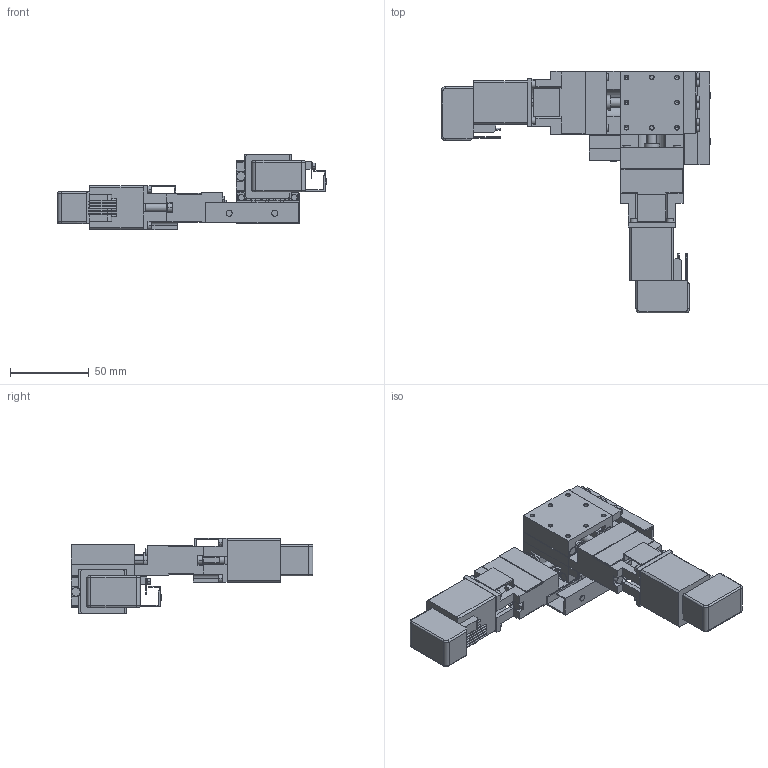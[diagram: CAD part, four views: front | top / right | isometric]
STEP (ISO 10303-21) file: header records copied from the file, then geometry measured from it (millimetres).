
FILE_DESCRIPTION(('STEP AP203'),'1');
FILE_NAME('C:/3D-Trans/3D_PMG413T-L□-ZA+240122.step','2024-03-14T08:40:26',(' '),(' '),'Spatial InterOp 3D',' ',' ');
FILE_SCHEMA(('CONFIG_CONTROL_DESIGN'));
Length unit declared in the file: millimetre
Products named in the file (12): 1; 2; 3; 4; 5; 6; 7; 8; 9; 10; 11; 12
Bounding box: 170.9 x 153.5 x 48 mm (x, y, z)
Volume: 191093.7 mm3; surface area: 83796 mm2
Topology: 12 solids, 12 shells, 1152 faces, 2914 edges, 1812 vertices
Faces by surface type: plane 618, cylinder 398, cone 128, torus 8
Entity records: 35176 total; most frequent: CARTESIAN_POINT 6484, DIRECTION 6086, ORIENTED_EDGE 5716, EDGE_CURVE 2858, AXIS2_PLACEMENT_3D 2118, LINE 1850, VECTOR 1850, VERTEX_POINT 1812
